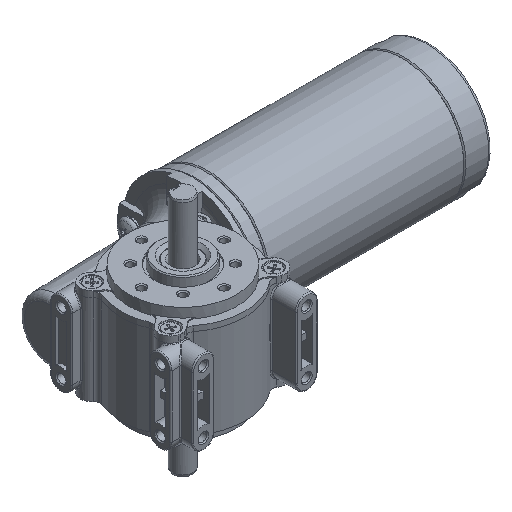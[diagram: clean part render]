
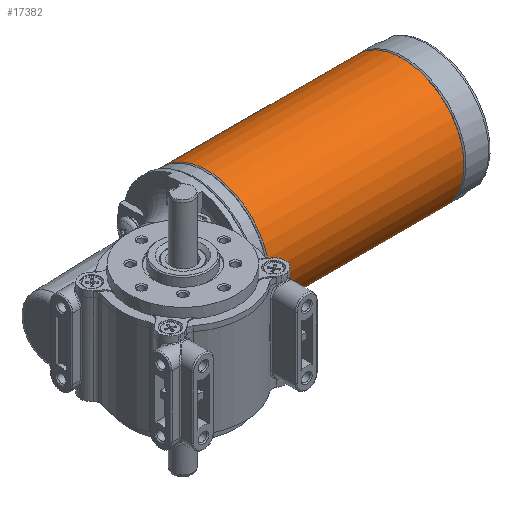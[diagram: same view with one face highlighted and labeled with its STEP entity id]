
A CAD part, isometric view. The second image highlights one B-rep face of the part: STEP entity #17382.
In plain terms, the highlighted cylindrical face has radius 30 mm (diameter 60 mm), a full revolution.
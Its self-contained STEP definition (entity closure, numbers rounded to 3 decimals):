
#893=FACE_BOUND('',#4536,.T.);
#1415=CYLINDRICAL_SURFACE('',#19247,30.);
#2235=CIRCLE('',#19246,30.);
#2236=CIRCLE('',#19248,30.);
#3234=FACE_OUTER_BOUND('',#4535,.T.);
#4535=EDGE_LOOP('',(#14255));
#4536=EDGE_LOOP('',(#14256));
#7856=VERTEX_POINT('',#31749);
#7857=VERTEX_POINT('',#31752);
#10057=EDGE_CURVE('',#7856,#7856,#2235,.T.);
#10058=EDGE_CURVE('',#7857,#7857,#2236,.T.);
#14255=ORIENTED_EDGE('',*,*,#10058,.F.);
#14256=ORIENTED_EDGE('',*,*,#10057,.F.);
#17382=ADVANCED_FACE('',(#3234,#893),#1415,.T.);
#19246=AXIS2_PLACEMENT_3D('',#31750,#23708,#23709);
#19247=AXIS2_PLACEMENT_3D('',#31751,#23710,#23711);
#19248=AXIS2_PLACEMENT_3D('',#31753,#23712,#23713);
#23708=DIRECTION('center_axis',(1.,0.,0.));
#23709=DIRECTION('ref_axis',(0.,0.707,0.707));
#23710=DIRECTION('center_axis',(-1.,0.,0.));
#23711=DIRECTION('ref_axis',(0.,0.707,0.707));
#23712=DIRECTION('center_axis',(-1.,0.,0.));
#23713=DIRECTION('ref_axis',(0.,0.707,0.707));
#31749=CARTESIAN_POINT('',(127.278,-5.12,-20.963));
#31750=CARTESIAN_POINT('Origin',(127.278,16.093,0.25));
#31751=CARTESIAN_POINT('Origin',(127.778,16.093,0.25));
#31752=CARTESIAN_POINT('',(33.278,-5.12,-20.963));
#31753=CARTESIAN_POINT('Origin',(33.278,16.093,0.25));
